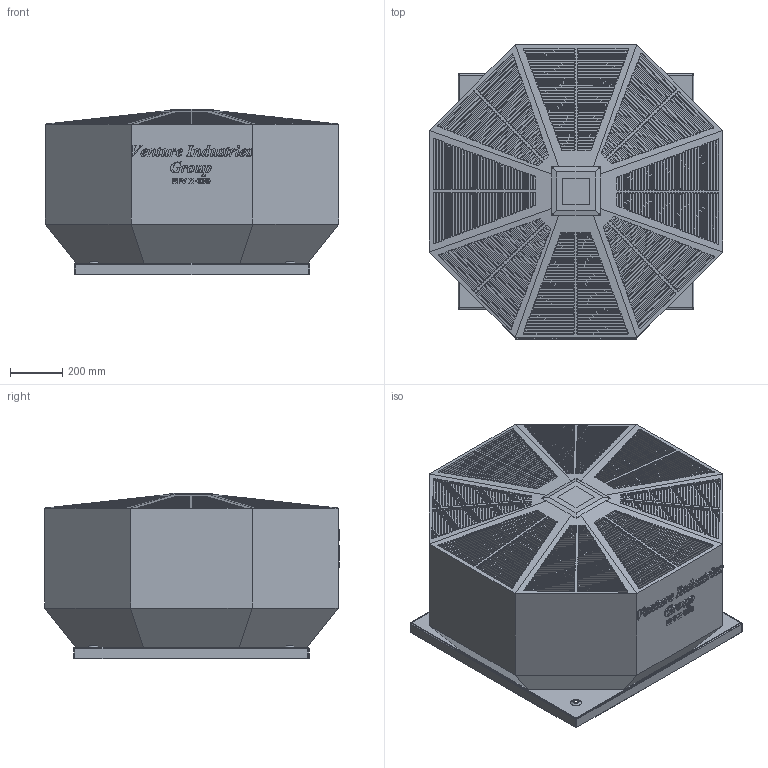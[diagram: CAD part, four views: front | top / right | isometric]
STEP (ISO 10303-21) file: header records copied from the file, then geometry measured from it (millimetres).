
FILE_DESCRIPTION(/* description */ (''),/* implementation_level */ '2;1');
FILE_NAME(/* name */ 'D:\Piotr - Dokumenty\Modele uproszczone\RFV\RFV X-630\komplet\RFV_X_630_X.stp',/* time_stamp */ '2021-03-16T14:25:20+01:00',/* author */ ('Piotr.Nowotniak'),/* organization */ (''),/* preprocessor_version */ 'ST-DEVELOPER v18',/* originating_system */ 'Autodesk Inventor 2020',/* authorisation */ '');
FILE_SCHEMA (('AUTOMOTIVE_DESIGN { 1 0 10303 214 3 1 1 }'));
Products named in the file (1): RFV_X_630_X
Bounding box: 1121 x 1126 x 631 mm (x, y, z)
Volume: 542860338.4 mm3; surface area: 5656778.4 mm2
Topology: 1 solids, 1 shells, 5400 faces, 14485 edges, 9658 vertices
Faces by surface type: plane 2916, cylinder 2096, bspline 360, torus 16, cone 8, sphere 4
Full cylindrical faces by diameter (mm): 14 x4
Entity records: 176881 total; most frequent: CARTESIAN_POINT 34671, ORIENTED_EDGE 28970, DIRECTION 28143, EDGE_CURVE 14485, VERTEX_POINT 9658, LINE 9469, VECTOR 9469, AXIS2_PLACEMENT_3D 9337
